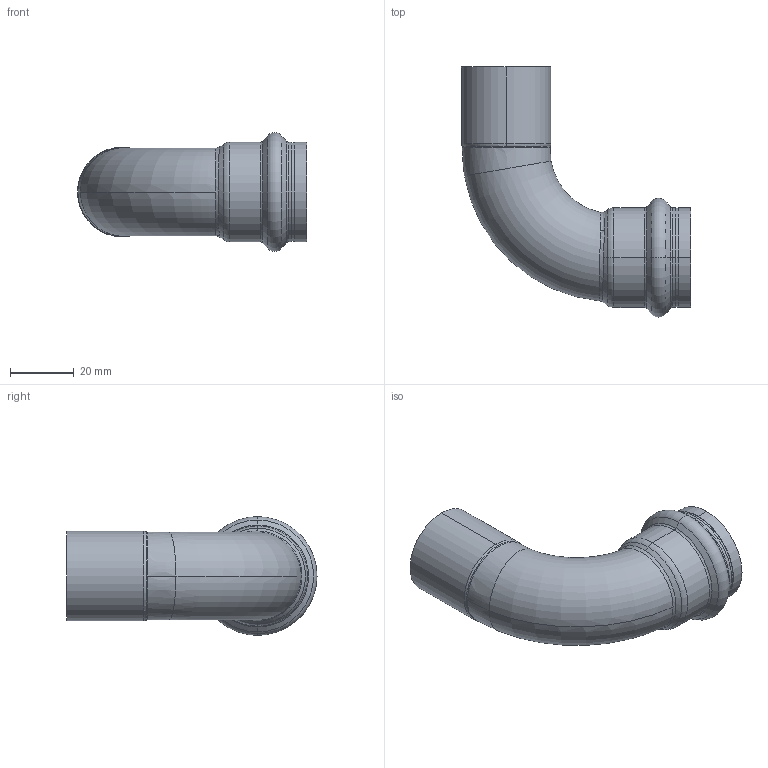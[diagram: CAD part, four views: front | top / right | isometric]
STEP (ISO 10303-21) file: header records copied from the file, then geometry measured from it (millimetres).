
FILE_DESCRIPTION (( 'STEP AP203' ), '1' );
FILE_NAME ('SP5001 Ø28.STEP', '2017-04-24T07:57:27', ( '' ), ( '' ), 'SwSTEP 2.0', 'SolidWorks 2016', '' );
FILE_SCHEMA (( 'CONFIG_CONTROL_DESIGN' ));
Length unit declared in the file: millimetre
Products named in the file (1): SP5001 ﾘ28
Bounding box: 71.7 x 78.3 x 37.2 mm (x, y, z)
Volume: 14154.7 mm3; surface area: 18525 mm2
Topology: 1 solids, 1 shells, 70 faces, 154 edges, 88 vertices
Faces by surface type: torus 24, cylinder 16, cone 14, bspline 12, plane 4
Entity records: 3789 total; most frequent: CARTESIAN_POINT 2221, DIRECTION 326, ORIENTED_EDGE 308, EDGE_CURVE 154, AXIS2_PLACEMENT_3D 149, CIRCLE 90, VERTEX_POINT 88, EDGE_LOOP 74
